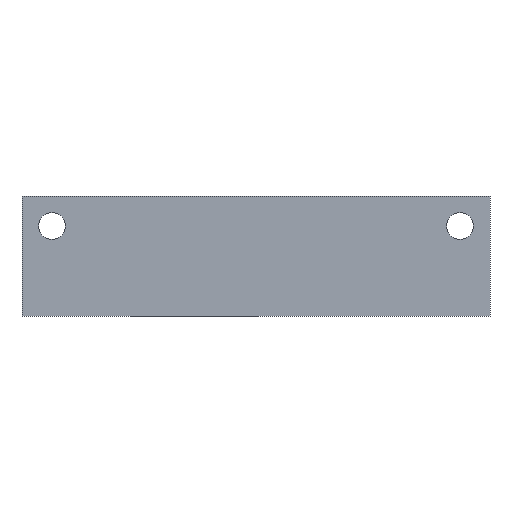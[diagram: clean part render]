
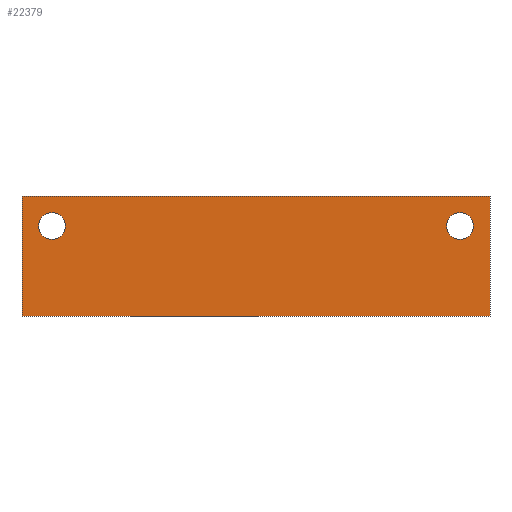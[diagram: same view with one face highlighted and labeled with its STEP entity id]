
A CAD part, front view. The second image highlights one B-rep face of the part: STEP entity #22379.
In plain terms, the highlighted planar face has unit normal (0, -1, 0).
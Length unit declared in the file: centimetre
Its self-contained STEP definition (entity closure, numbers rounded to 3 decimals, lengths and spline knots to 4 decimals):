
#435=CIRCLE('',#45760,0.225);
#532=CIRCLE('',#46165,0.225);
#1791=VERTEX_POINT('',#30969);
#1802=VERTEX_POINT('',#30994);
#1803=VERTEX_POINT('',#30996);
#2529=VERTEX_POINT('',#36596);
#2536=VERTEX_POINT('',#36615);
#2537=VERTEX_POINT('',#36620);
#4030=VECTOR('',#24594,1.);
#4762=VECTOR('',#25888,1.);
#4774=VECTOR('',#25901,1.);
#4775=VECTOR('',#25906,1.);
#6410=LINE('',#30995,#4030);
#7134=LINE('',#36595,#4762);
#7146=LINE('',#36616,#4774);
#7147=LINE('',#36621,#4775);
#8956=EDGE_CURVE('',#1791,#1791,#435,.T.);
#8969=EDGE_CURVE('',#1803,#1802,#6410,.T.);
#10090=EDGE_CURVE('',#1803,#2529,#7134,.T.);
#10102=EDGE_CURVE('',#2536,#1802,#7146,.T.);
#10103=EDGE_CURVE('',#2537,#2537,#532,.T.);
#10104=EDGE_CURVE('',#2529,#2536,#7147,.T.);
#15138=ORIENTED_EDGE('',*,*,#8956,.F.);
#15139=ORIENTED_EDGE('',*,*,#10103,.T.);
#15140=ORIENTED_EDGE('',*,*,#10102,.F.);
#15141=ORIENTED_EDGE('',*,*,#10104,.F.);
#15142=ORIENTED_EDGE('',*,*,#10090,.F.);
#15143=ORIENTED_EDGE('',*,*,#8969,.T.);
#19493=EDGE_LOOP('',(#15138));
#19494=EDGE_LOOP('',(#15139));
#19495=EDGE_LOOP('',(#15140,#15141,#15142,#15143));
#20972=FACE_BOUND('',#19493,.T.);
#20973=FACE_BOUND('',#19494,.T.);
#20974=FACE_BOUND('',#19495,.T.);
#22379=ADVANCED_FACE('',(#20972,#20973,#20974),#23475,.F.);
#23475=PLANE('',#46164);
#24578=DIRECTION('',(0.,-1.,0.));
#24579=DIRECTION('',(-0.225,0.,0.));
#24594=DIRECTION('',(0.,0.,1.));
#25888=DIRECTION('',(-1.,0.,0.));
#25901=DIRECTION('',(1.,0.,0.));
#25903=DIRECTION('',(0.,1.,0.));
#25904=DIRECTION('',(0.,1.,0.));
#25905=DIRECTION('',(0.225,0.,0.));
#25906=DIRECTION('',(0.,0.,1.));
#30968=CARTESIAN_POINT('',(4.5,0.,0.5));
#30969=CARTESIAN_POINT('',(4.725,0.,0.5));
#30994=CARTESIAN_POINT('',(5.,0.,1.));
#30995=CARTESIAN_POINT('',(5.,0.,-1.));
#30996=CARTESIAN_POINT('',(5.,0.,-1.));
#36595=CARTESIAN_POINT('',(-1.,0.,-1.));
#36596=CARTESIAN_POINT('',(-2.8,0.,-1.));
#36615=CARTESIAN_POINT('',(-2.8,0.,1.));
#36616=CARTESIAN_POINT('',(-2.8,0.,1.));
#36618=CARTESIAN_POINT('',(0.5,0.,0.));
#36619=CARTESIAN_POINT('',(-2.3,0.,0.5));
#36620=CARTESIAN_POINT('',(-2.525,0.,0.5));
#36621=CARTESIAN_POINT('',(-2.8,0.,-1.));
#45760=AXIS2_PLACEMENT_3D('',#30968,#24578,#24579);
#46164=AXIS2_PLACEMENT_3D('',#36618,#25903,$);
#46165=AXIS2_PLACEMENT_3D('',#36619,#25904,#25905);
